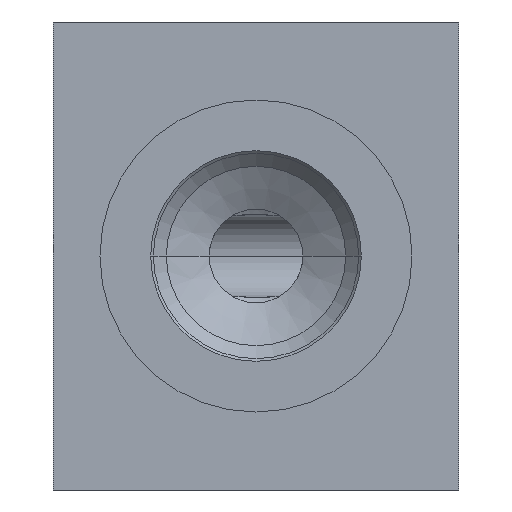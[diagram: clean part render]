
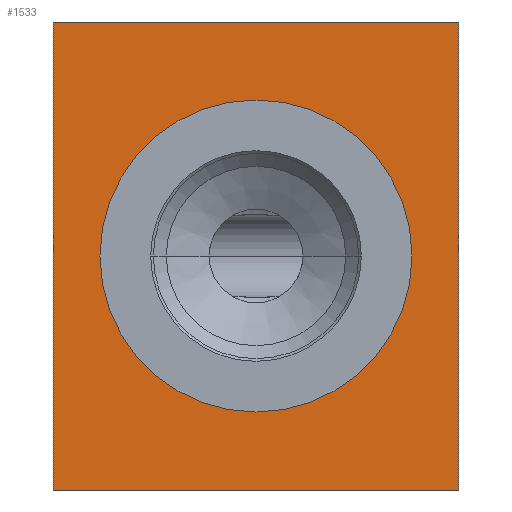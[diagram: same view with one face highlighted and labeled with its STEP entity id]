
A CAD part, left-side view. The second image highlights one B-rep face of the part: STEP entity #1533.
In plain terms, the highlighted planar face has unit normal (-1, 0, 0).
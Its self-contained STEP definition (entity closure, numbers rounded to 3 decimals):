
#40=DIRECTION('',(0.,-1.,0.));
#41=VECTOR('',#40,26.);
#42=CARTESIAN_POINT('',(0.,26.,0.));
#43=LINE('',#42,#41);
#47=DIRECTION('',(0.,0.,1.));
#48=VECTOR('',#47,30.);
#49=CARTESIAN_POINT('',(0.,0.,0.));
#50=LINE('',#49,#48);
#150=DIRECTION('',(0.,0.,1.));
#151=VECTOR('',#150,30.);
#152=CARTESIAN_POINT('',(0.,26.,0.));
#153=LINE('',#152,#151);
#157=CARTESIAN_POINT('',(0.,13.,15.));
#158=DIRECTION('',(1.,0.,0.));
#159=DIRECTION('',(0.,-1.,0.));
#160=AXIS2_PLACEMENT_3D('',#157,#158,#159);
#165=CARTESIAN_POINT('',(0.,13.,15.));
#166=DIRECTION('',(1.,0.,0.));
#167=DIRECTION('',(0.,1.,0.));
#168=AXIS2_PLACEMENT_3D('',#165,#166,#167);
#306=DIRECTION('',(0.,-1.,0.));
#307=VECTOR('',#306,26.);
#308=CARTESIAN_POINT('',(0.,26.,30.));
#309=LINE('',#308,#307);
#1265=CARTESIAN_POINT('',(0.,0.,0.));
#1267=VERTEX_POINT('',#1265);
#1271=CARTESIAN_POINT('',(0.,26.,0.));
#1272=VERTEX_POINT('',#1271);
#1273=CARTESIAN_POINT('',(0.,0.,30.));
#1275=VERTEX_POINT('',#1273);
#1279=CARTESIAN_POINT('',(0.,26.,30.));
#1280=VERTEX_POINT('',#1279);
#1365=CARTESIAN_POINT('',(0.,3.,15.));
#1366=VERTEX_POINT('',#1365);
#1367=CARTESIAN_POINT('',(0.,23.,15.));
#1368=VERTEX_POINT('',#1367);
#1514=CARTESIAN_POINT('',(0.,26.,0.));
#1515=DIRECTION('',(-1.,0.,0.));
#1516=DIRECTION('',(0.,-1.,0.));
#1517=AXIS2_PLACEMENT_3D('',#1514,#1515,#1516);
#1518=PLANE('',#1517);
#1519=ORIENTED_EDGE('',*,*,#1434,.F.);
#1521=ORIENTED_EDGE('',*,*,#1520,.T.);
#1523=ORIENTED_EDGE('',*,*,#1522,.T.);
#1524=ORIENTED_EDGE('',*,*,#1457,.F.);
#1525=EDGE_LOOP('',(#1519,#1521,#1523,#1524));
#1526=FACE_OUTER_BOUND('',#1525,.F.);
#1528=ORIENTED_EDGE('',*,*,#1527,.F.);
#1530=ORIENTED_EDGE('',*,*,#1529,.F.);
#1531=EDGE_LOOP('',(#1528,#1530));
#1532=FACE_BOUND('',#1531,.F.);
#161=CIRCLE('',#160,10.);
#169=CIRCLE('',#168,10.);
#1434=EDGE_CURVE('',#1272,#1267,#43,.T.);
#1457=EDGE_CURVE('',#1267,#1275,#50,.T.);
#1520=EDGE_CURVE('',#1272,#1280,#153,.T.);
#1522=EDGE_CURVE('',#1280,#1275,#309,.T.);
#1527=EDGE_CURVE('',#1366,#1368,#161,.T.);
#1529=EDGE_CURVE('',#1368,#1366,#169,.T.);
#1533=ADVANCED_FACE('',(#1526,#1532),#1518,.T.);
